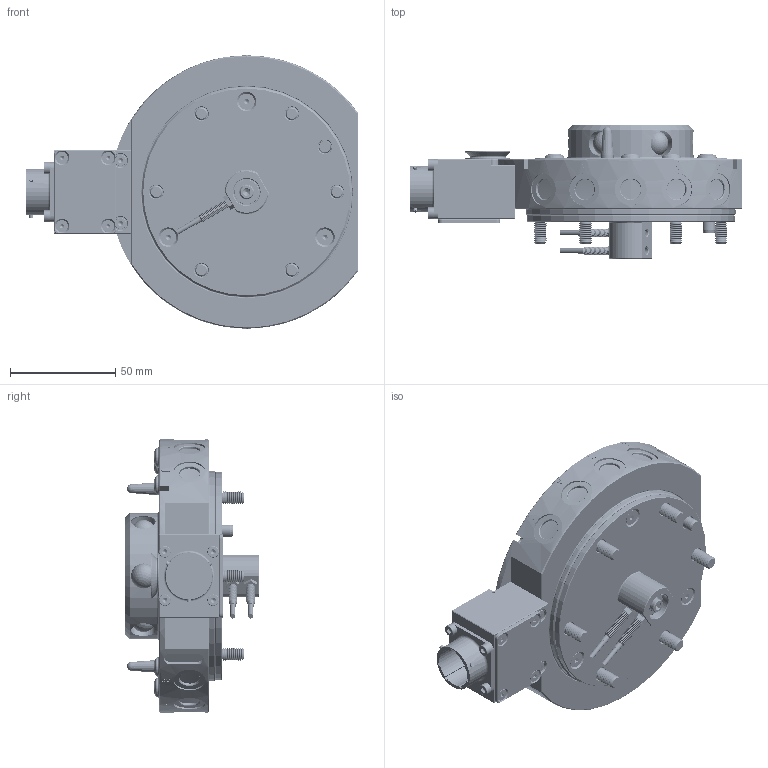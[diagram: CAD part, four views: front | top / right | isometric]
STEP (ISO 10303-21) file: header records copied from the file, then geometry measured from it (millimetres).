
FILE_DESCRIPTION (( 'STEP AP214' ), '1' );
FILE_NAME ('HQ--75.STEP', '2021-03-12T01:47:22', ( '' ), ( '' ), 'SwSTEP 2.0', 'SolidWorks 2018', '' );
FILE_SCHEMA (( 'AUTOMOTIVE_DESIGN' ));
Length unit declared in the file: millimetre
Products named in the file (1): HQ--75
Bounding box: 158 x 63.85 x 130 mm (x, y, z)
Volume: 416091.5 mm3; surface area: 67468.4 mm2
Topology: 7 solids, 88 shells, 3334 faces, 8041 edges, 4989 vertices
Faces by surface type: cone 1186, cylinder 1014, plane 812, torus 175, bspline 131, sphere 16
Entity records: 148518 total; most frequent: CARTESIAN_POINT 35487, DIRECTION 17274, ORIENTED_EDGE 15942, EDGE_CURVE 7971, AXIS2_PLACEMENT_3D 7017, VERTEX_POINT 4971, CIRCLE 3813, EDGE_LOOP 3584
